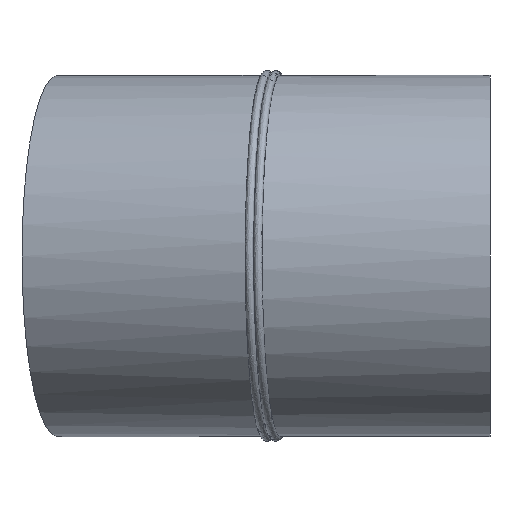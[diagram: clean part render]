
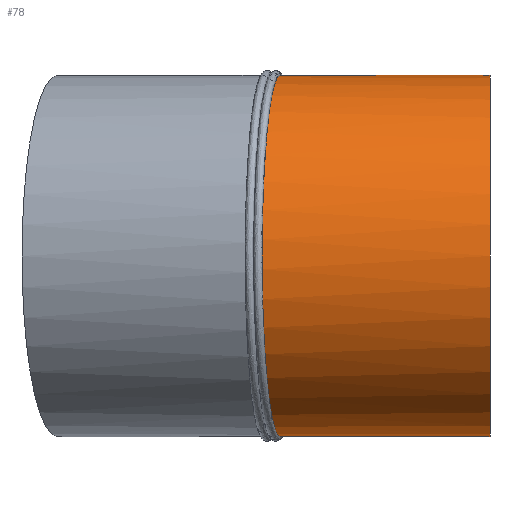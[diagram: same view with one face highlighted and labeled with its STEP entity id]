
A CAD part, left-side view. The second image highlights one B-rep face of the part: STEP entity #78.
In plain terms, the highlighted cylindrical face has radius 315 mm (diameter 630 mm), a full revolution.
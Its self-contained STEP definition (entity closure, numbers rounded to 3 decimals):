
#32=B_SPLINE_CURVE_WITH_KNOTS('',3,(#131,#132,#133,#134,#135,#136,#137,
#138,#139,#140,#141,#142,#143,#144,#145,#146,#147,#148,#149,#150,#151,#152,
#153,#154,#155,#156,#157,#158,#159,#160,#161,#162,#163,#164,#165,#166,#167,
#168,#169,#170,#171,#172,#173,#174,#175,#176,#177,#178,#179,#180,#181,#182,
#183,#184,#185,#186,#187,#188,#189,#190,#191,#192,#193,#194,#195,#196,#197,
#198,#199,#200,#201,#202,#203,#204,#205,#206,#207,#208,#209,#210,#211,#212,
#213,#214,#215,#216,#217,#218,#219,#220,#221,#222,#223,#224,#225,#226,#227,
#228,#229,#230,#231,#232,#233,#234,#235),.UNSPECIFIED.,.T.,.F.,(1,1,1,1,
1,1,1,1,1,1,1,1,1,1,1,1,1,1,1,1,1,1,1,1,1,1,1,1,1,1,1,1,1,1,1,1,1,1,1,1,
1,1,1,1,1,1,1,1,1,1,1,1,1,1,1,1,1,1,1,1,1,1,1,1,1,1,1,1,1,1,1,1,1,1,1,1,
1,1,1,1,1,1,1,1,1,1,1,1,1,1,1,1,1,1,1,1,1,1,1,1,1,1,1,1,1,1,1,1,1),(-0.062,
-0.031,-0.016,0.,0.016,
0.031,0.062,0.078,0.093,
0.125,0.156,0.171,0.187,
0.202,0.218,0.234,0.249,
0.28,0.296,0.311,0.327,
0.342,0.358,0.374,0.389,
0.405,0.436,0.451,0.467,
0.498,0.529,0.545,0.56,0.592,
0.623,0.638,0.654,0.669,
0.685,0.701,0.716,0.747,
0.778,0.81,0.841,0.856,
0.872,0.887,0.903,0.919,
0.934,0.965,0.981,0.996,
1.012,1.027,1.043,1.059,1.074,
1.09,1.121,1.136,1.152,1.183,
1.214,1.23,1.245,1.261,1.277,
1.308,1.339,1.354,1.37,1.386,
1.401,1.417,1.432,1.463,1.479,
1.495,1.51,1.526,1.557,1.572,
1.588,1.604,1.619,1.635,1.65,
1.681,1.712,1.728,1.744,1.775,
1.79,1.806,1.821,1.837,1.853,
1.868,1.884,1.899,1.93,1.962,
1.977,1.993,2.008,2.024,2.055),
 .UNSPECIFIED.);
#34=ORIENTED_EDGE('',*,*,#44,.T.);
#35=ORIENTED_EDGE('',*,*,#45,.F.);
#44=EDGE_CURVE('',#49,#49,#54,.T.);
#45=EDGE_CURVE('',#50,#50,#32,.T.);
#49=VERTEX_POINT('',#130);
#50=VERTEX_POINT('',#236);
#54=CIRCLE('',#99,315.);
#56=EDGE_LOOP('',(#34));
#57=EDGE_LOOP('',(#35));
#66=FACE_BOUND('',#56,.T.);
#67=FACE_BOUND('',#57,.T.);
#76=CYLINDRICAL_SURFACE('',#98,315.);
#78=ADVANCED_FACE('',(#66,#67),#76,.T.);
#98=AXIS2_PLACEMENT_3D('',#128,#109,#110);
#99=AXIS2_PLACEMENT_3D('',#129,#111,#112);
#109=DIRECTION('',(0.,-1.,0.));
#110=DIRECTION('',(0.,0.,-1.));
#111=DIRECTION('',(0.,1.,0.));
#112=DIRECTION('',(1.,0.,0.));
#128=CARTESIAN_POINT('',(0.,650.,0.));
#129=CARTESIAN_POINT('',(0.,0.,0.));
#130=CARTESIAN_POINT('',(315.,0.,0.));
#131=CARTESIAN_POINT('',(15.459,364.495,-314.746));
#132=CARTESIAN_POINT('',(0.011,366.023,-315.127));
#133=CARTESIAN_POINT('',(-15.502,367.559,-314.746));
#134=CARTESIAN_POINT('',(-36.072,369.595,-313.224));
#135=CARTESIAN_POINT('',(-56.404,371.61,-310.209));
#136=CARTESIAN_POINT('',(-76.573,373.61,-305.682));
#137=CARTESIAN_POINT('',(-96.41,375.577,-300.191));
#138=CARTESIAN_POINT('',(-120.439,377.962,-291.6));
#139=CARTESIAN_POINT('',(-143.511,380.255,-280.736));
#140=CARTESIAN_POINT('',(-161.368,382.029,-270.675));
#141=CARTESIAN_POINT('',(-174.491,383.334,-262.409));
#142=CARTESIAN_POINT('',(-187.178,384.596,-253.514));
#143=CARTESIAN_POINT('',(-199.392,385.812,-244.024));
#144=CARTESIAN_POINT('',(-211.15,386.982,-233.925));
#145=CARTESIAN_POINT('',(-226.176,388.479,-219.673));
#146=CARTESIAN_POINT('',(-240.058,389.862,-204.412));
#147=CARTESIAN_POINT('',(-252.843,391.136,-188.086));
#148=CARTESIAN_POINT('',(-261.787,392.028,-175.421));
#149=CARTESIAN_POINT('',(-270.094,392.856,-162.341));
#150=CARTESIAN_POINT('',(-277.771,393.622,-148.824));
#151=CARTESIAN_POINT('',(-284.769,394.32,-134.95));
#152=CARTESIAN_POINT('',(-291.062,394.948,-120.781));
#153=CARTESIAN_POINT('',(-296.659,395.507,-106.298));
#154=CARTESIAN_POINT('',(-303.176,396.157,-86.586));
#155=CARTESIAN_POINT('',(-308.197,396.659,-66.541));
#156=CARTESIAN_POINT('',(-311.743,397.013,-46.065));
#157=CARTESIAN_POINT('',(-314.254,397.263,-25.582));
#158=CARTESIAN_POINT('',(-315.498,397.387,0.009));
#159=CARTESIAN_POINT('',(-314.253,397.263,25.594));
#160=CARTESIAN_POINT('',(-311.745,397.013,46.048));
#161=CARTESIAN_POINT('',(-308.202,396.659,66.522));
#162=CARTESIAN_POINT('',(-301.923,396.032,91.594));
#163=CARTESIAN_POINT('',(-293.164,395.158,116.05));
#164=CARTESIAN_POINT('',(-284.774,394.321,134.939));
#165=CARTESIAN_POINT('',(-277.783,393.623,148.803));
#166=CARTESIAN_POINT('',(-270.101,392.857,162.33));
#167=CARTESIAN_POINT('',(-261.793,392.028,175.412));
#168=CARTESIAN_POINT('',(-252.853,391.137,188.072));
#169=CARTESIAN_POINT('',(-240.069,389.863,204.399));
#170=CARTESIAN_POINT('',(-222.711,388.133,223.486));
#171=CARTESIAN_POINT('',(-199.615,385.834,244.331));
#172=CARTESIAN_POINT('',(-174.949,383.38,262.543));
#173=CARTESIAN_POINT('',(-153.05,381.202,275.652));
#174=CARTESIAN_POINT('',(-134.742,379.383,284.867));
#175=CARTESIAN_POINT('',(-120.572,377.976,291.149));
#176=CARTESIAN_POINT('',(-106.13,376.542,296.717));
#177=CARTESIAN_POINT('',(-91.462,375.087,301.561));
#178=CARTESIAN_POINT('',(-76.548,373.607,305.689));
#179=CARTESIAN_POINT('',(-56.385,371.608,310.213));
#180=CARTESIAN_POINT('',(-36.029,369.591,313.23));
#181=CARTESIAN_POINT('',(-15.411,367.55,314.75));
#182=CARTESIAN_POINT('',(0.038,366.021,315.126));
#183=CARTESIAN_POINT('',(15.475,364.493,314.746));
#184=CARTESIAN_POINT('',(30.92,362.966,313.606));
#185=CARTESIAN_POINT('',(46.284,361.448,311.709));
#186=CARTESIAN_POINT('',(61.499,359.945,309.067));
#187=CARTESIAN_POINT('',(76.586,358.455,305.679));
#188=CARTESIAN_POINT('',(96.515,356.488,300.16));
#189=CARTESIAN_POINT('',(115.892,354.576,293.225));
#190=CARTESIAN_POINT('',(134.811,352.711,284.835));
#191=CARTESIAN_POINT('',(153.184,350.901,275.579));
#192=CARTESIAN_POINT('',(175.085,348.744,262.453));
#193=CARTESIAN_POINT('',(195.612,346.724,247.274));
#194=CARTESIAN_POINT('',(211.185,345.193,233.893));
#195=CARTESIAN_POINT('',(222.458,344.084,223.2));
#196=CARTESIAN_POINT('',(233.163,343.032,211.99));
#197=CARTESIAN_POINT('',(246.672,341.705,196.38));
#198=CARTESIAN_POINT('',(262.154,340.184,175.56));
#199=CARTESIAN_POINT('',(275.453,338.879,153.423));
#200=CARTESIAN_POINT('',(284.799,337.962,134.89));
#201=CARTESIAN_POINT('',(291.091,337.345,120.711));
#202=CARTESIAN_POINT('',(296.677,336.797,106.246));
#203=CARTESIAN_POINT('',(301.565,336.317,91.457));
#204=CARTESIAN_POINT('',(305.695,335.912,76.518));
#205=CARTESIAN_POINT('',(310.197,335.471,56.454));
#206=CARTESIAN_POINT('',(313.213,335.175,36.152));
#207=CARTESIAN_POINT('',(314.739,335.026,15.627));
#208=CARTESIAN_POINT('',(315.128,334.987,0.091));
#209=CARTESIAN_POINT('',(314.748,335.025,-15.471));
#210=CARTESIAN_POINT('',(313.224,335.174,-36.109));
#211=CARTESIAN_POINT('',(310.163,335.474,-56.675));
#212=CARTESIAN_POINT('',(305.61,335.921,-76.861));
#213=CARTESIAN_POINT('',(301.447,336.329,-91.846));
#214=CARTESIAN_POINT('',(296.545,336.81,-106.613));
#215=CARTESIAN_POINT('',(290.939,337.36,-121.077));
#216=CARTESIAN_POINT('',(284.614,337.98,-135.279));
#217=CARTESIAN_POINT('',(275.262,338.898,-153.762));
#218=CARTESIAN_POINT('',(262.023,340.197,-175.736));
#219=CARTESIAN_POINT('',(246.727,341.7,-196.305));
#220=CARTESIAN_POINT('',(233.244,343.024,-211.902));
#221=CARTESIAN_POINT('',(218.929,344.431,-226.898));
#222=CARTESIAN_POINT('',(203.632,345.935,-240.719));
#223=CARTESIAN_POINT('',(187.286,347.544,-253.435));
#224=CARTESIAN_POINT('',(174.609,348.791,-262.329));
#225=CARTESIAN_POINT('',(161.53,350.079,-270.579));
#226=CARTESIAN_POINT('',(148.032,351.409,-278.194));
#227=CARTESIAN_POINT('',(134.171,352.775,-285.137));
#228=CARTESIAN_POINT('',(120.03,354.168,-291.371));
#229=CARTESIAN_POINT('',(105.59,355.593,-296.911));
#230=CARTESIAN_POINT('',(85.938,357.532,-303.358));
#231=CARTESIAN_POINT('',(61.111,359.983,-309.519));
#232=CARTESIAN_POINT('',(35.875,362.476,-313.242));
#233=CARTESIAN_POINT('',(15.459,364.495,-314.746));
#234=CARTESIAN_POINT('',(0.011,366.023,-315.127));
#235=CARTESIAN_POINT('',(-15.502,367.559,-314.746));
#236=CARTESIAN_POINT('',(0.,366.024,-315.));
